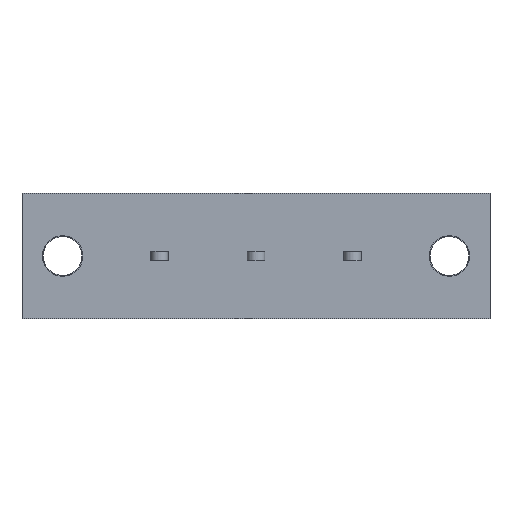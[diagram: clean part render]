
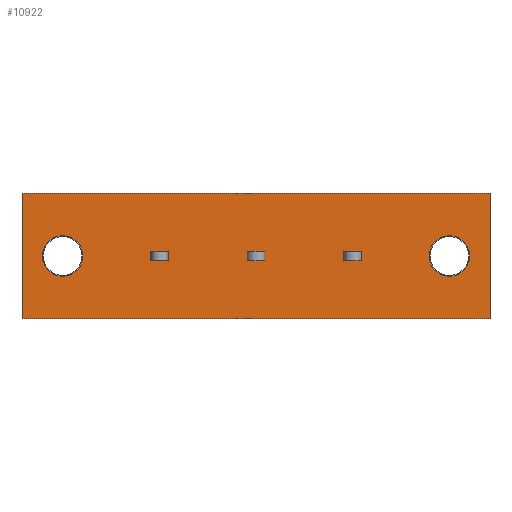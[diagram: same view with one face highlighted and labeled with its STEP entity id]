
A CAD part, front view. The second image highlights one B-rep face of the part: STEP entity #10922.
In plain terms, the highlighted planar face has unit normal (0, -1, 0).
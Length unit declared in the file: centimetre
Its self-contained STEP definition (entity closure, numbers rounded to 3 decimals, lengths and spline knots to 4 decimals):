
#925=VECTOR('',#12335,1.);
#1042=VECTOR('',#12616,1.);
#1047=VECTOR('',#12628,1.);
#1051=VECTOR('',#12646,1.);
#1053=VECTOR('',#12649,1.);
#1069=VECTOR('',#12674,1.);
#1070=VECTOR('',#12675,1.);
#1071=VECTOR('',#12676,1.);
#1072=VECTOR('',#12677,1.);
#1073=VECTOR('',#12678,1.);
#1074=VECTOR('',#12679,1.);
#1075=VECTOR('',#12680,1.);
#1076=VECTOR('',#12681,1.);
#1077=VECTOR('',#12682,1.);
#1078=VECTOR('',#12683,1.);
#1079=VECTOR('',#12684,1.);
#2193=LINE('',#15453,#925);
#2310=LINE('',#15834,#1042);
#2315=LINE('',#15849,#1047);
#2319=LINE('',#15863,#1051);
#2321=LINE('',#15867,#1053);
#2337=LINE('',#15906,#1069);
#2338=LINE('',#15909,#1070);
#2339=LINE('',#15911,#1071);
#2340=LINE('',#15913,#1072);
#2341=LINE('',#15914,#1073);
#2342=LINE('',#15917,#1074);
#2343=LINE('',#15919,#1075);
#2344=LINE('',#15921,#1076);
#2345=LINE('',#15922,#1077);
#2346=LINE('',#15924,#1078);
#2347=LINE('',#15926,#1079);
#3428=VERTEX_POINT('',#15451);
#3430=VERTEX_POINT('',#15454);
#3436=VERTEX_POINT('',#15468);
#3548=VERTEX_POINT('',#15835);
#3549=VERTEX_POINT('',#15836);
#3554=VERTEX_POINT('',#15850);
#3555=VERTEX_POINT('',#15864);
#3572=VERTEX_POINT('',#15905);
#3573=VERTEX_POINT('',#15907);
#3574=VERTEX_POINT('',#15908);
#3575=VERTEX_POINT('',#15910);
#3576=VERTEX_POINT('',#15912);
#3577=VERTEX_POINT('',#15915);
#3578=VERTEX_POINT('',#15916);
#3579=VERTEX_POINT('',#15918);
#3580=VERTEX_POINT('',#15920);
#3581=VERTEX_POINT('',#15923);
#3582=VERTEX_POINT('',#15925);
#4184=CIRCLE('',#18456,0.21);
#4225=CIRCLE('',#18580,0.21);
#4837=EDGE_CURVE('',#3430,#3428,#2193,.T.);
#4844=EDGE_CURVE('',#3436,#3436,#4184,.T.);
#5005=EDGE_CURVE('',#3548,#3549,#2310,.T.);
#5012=EDGE_CURVE('',#3554,#3548,#2315,.T.);
#5019=EDGE_CURVE('',#3555,#3554,#2319,.T.);
#5021=EDGE_CURVE('',#3549,#3555,#2321,.T.);
#5039=EDGE_CURVE('',#3572,#3572,#4225,.T.);
#5040=EDGE_CURVE('',#3573,#3574,#2337,.T.);
#5041=EDGE_CURVE('',#3574,#3575,#2338,.T.);
#5042=EDGE_CURVE('',#3575,#3576,#2339,.T.);
#5043=EDGE_CURVE('',#3576,#3573,#2340,.T.);
#5044=EDGE_CURVE('',#3577,#3578,#2341,.T.);
#5045=EDGE_CURVE('',#3578,#3579,#2342,.T.);
#5046=EDGE_CURVE('',#3579,#3580,#2343,.T.);
#5047=EDGE_CURVE('',#3580,#3577,#2344,.T.);
#5048=EDGE_CURVE('',#3581,#3430,#2345,.T.);
#5049=EDGE_CURVE('',#3582,#3428,#2346,.T.);
#5050=EDGE_CURVE('',#3582,#3581,#2347,.T.);
#7372=ORIENTED_EDGE('',*,*,#4844,.T.);
#7373=ORIENTED_EDGE('',*,*,#5039,.T.);
#7374=ORIENTED_EDGE('',*,*,#5012,.F.);
#7375=ORIENTED_EDGE('',*,*,#5019,.F.);
#7376=ORIENTED_EDGE('',*,*,#5021,.F.);
#7377=ORIENTED_EDGE('',*,*,#5005,.F.);
#7378=ORIENTED_EDGE('',*,*,#5040,.T.);
#7379=ORIENTED_EDGE('',*,*,#5041,.T.);
#7380=ORIENTED_EDGE('',*,*,#5042,.T.);
#7381=ORIENTED_EDGE('',*,*,#5043,.T.);
#7382=ORIENTED_EDGE('',*,*,#5044,.T.);
#7383=ORIENTED_EDGE('',*,*,#5045,.T.);
#7384=ORIENTED_EDGE('',*,*,#5046,.T.);
#7385=ORIENTED_EDGE('',*,*,#5047,.T.);
#7386=ORIENTED_EDGE('',*,*,#5048,.T.);
#7387=ORIENTED_EDGE('',*,*,#4837,.T.);
#7388=ORIENTED_EDGE('',*,*,#5049,.F.);
#7389=ORIENTED_EDGE('',*,*,#5050,.T.);
#9565=EDGE_LOOP('',(#7372));
#9566=EDGE_LOOP('',(#7373));
#9567=EDGE_LOOP('',(#7374,#7375,#7376,#7377));
#9568=EDGE_LOOP('',(#7378,#7379,#7380,#7381));
#9569=EDGE_LOOP('',(#7382,#7383,#7384,#7385));
#9570=EDGE_LOOP('',(#7386,#7387,#7388,#7389));
#10261=FACE_BOUND('',#9565,.T.);
#10262=FACE_BOUND('',#9566,.T.);
#10263=FACE_BOUND('',#9567,.T.);
#10264=FACE_BOUND('',#9568,.T.);
#10265=FACE_BOUND('',#9569,.T.);
#10266=FACE_BOUND('',#9570,.T.);
#10922=ADVANCED_FACE('',(#10261,#10262,#10263,#10264,#10265,#10266),#11475,
 .T.);
#11475=PLANE('',#18579);
#12335=DIRECTION('',(0.,0.,1.));
#12344=DIRECTION('',(0.,1.,0.));
#12345=DIRECTION('',(0.21,0.,0.));
#12616=DIRECTION('',(0.,0.,1.));
#12628=DIRECTION('',(1.,0.,0.));
#12646=DIRECTION('',(0.,0.,-1.));
#12649=DIRECTION('',(-1.,0.,0.));
#12671=DIRECTION('',(0.,-1.,0.));
#12672=DIRECTION('',(0.,1.,0.));
#12673=DIRECTION('',(0.21,0.,0.));
#12674=DIRECTION('',(-1.,0.,0.));
#12675=DIRECTION('',(0.,0.,1.));
#12676=DIRECTION('',(1.,0.,0.));
#12677=DIRECTION('',(0.,0.,-1.));
#12678=DIRECTION('',(-1.,0.,0.));
#12679=DIRECTION('',(0.,0.,1.));
#12680=DIRECTION('',(1.,0.,0.));
#12681=DIRECTION('',(0.,0.,-1.));
#12682=DIRECTION('',(1.,0.,0.));
#12683=DIRECTION('',(1.,0.,0.));
#12684=DIRECTION('',(0.,0.,-1.));
#15451=CARTESIAN_POINT('',(3.,0.,0.65));
#15453=CARTESIAN_POINT('',(3.,0.,0.65));
#15454=CARTESIAN_POINT('',(3.,0.,-0.65));
#15467=CARTESIAN_POINT('',(2.58,0.,0.));
#15468=CARTESIAN_POINT('',(2.37,0.,0.));
#15834=CARTESIAN_POINT('',(-0.33,0.,-0.175));
#15835=CARTESIAN_POINT('',(-0.33,0.,-0.05));
#15836=CARTESIAN_POINT('',(-0.33,0.,0.05));
#15849=CARTESIAN_POINT('',(-0.63,0.,-0.05));
#15850=CARTESIAN_POINT('',(-0.51,0.,-0.05));
#15863=CARTESIAN_POINT('',(-0.51,0.,-0.175));
#15864=CARTESIAN_POINT('',(-0.51,0.,0.05));
#15867=CARTESIAN_POINT('',(-0.63,0.,0.05));
#15903=CARTESIAN_POINT('',(0.,0.,0.));
#15904=CARTESIAN_POINT('',(-1.42,0.,0.));
#15905=CARTESIAN_POINT('',(-1.63,0.,0.));
#15906=CARTESIAN_POINT('',(0.79,0.,-0.05));
#15907=CARTESIAN_POINT('',(1.67,0.,-0.05));
#15908=CARTESIAN_POINT('',(1.49,0.,-0.05));
#15909=CARTESIAN_POINT('',(1.49,0.,-0.175));
#15910=CARTESIAN_POINT('',(1.49,0.,0.05));
#15911=CARTESIAN_POINT('',(0.79,0.,0.05));
#15912=CARTESIAN_POINT('',(1.67,0.,0.05));
#15913=CARTESIAN_POINT('',(1.67,0.,-0.175));
#15914=CARTESIAN_POINT('',(0.29,0.,-0.05));
#15915=CARTESIAN_POINT('',(0.67,0.,-0.05));
#15916=CARTESIAN_POINT('',(0.49,0.,-0.05));
#15917=CARTESIAN_POINT('',(0.49,0.,-0.175));
#15918=CARTESIAN_POINT('',(0.49,0.,0.05));
#15919=CARTESIAN_POINT('',(0.29,0.,0.05));
#15920=CARTESIAN_POINT('',(0.67,0.,0.05));
#15921=CARTESIAN_POINT('',(0.67,0.,-0.175));
#15922=CARTESIAN_POINT('',(-1.84,0.,-0.65));
#15923=CARTESIAN_POINT('',(-1.84,0.,-0.65));
#15924=CARTESIAN_POINT('',(0.,0.,0.65));
#15925=CARTESIAN_POINT('',(-1.84,0.,0.65));
#15926=CARTESIAN_POINT('',(-1.84,0.,0.65));
#18456=AXIS2_PLACEMENT_3D('',#15467,#12344,#12345);
#18579=AXIS2_PLACEMENT_3D('',#15903,#12671,$);
#18580=AXIS2_PLACEMENT_3D('',#15904,#12672,#12673);
